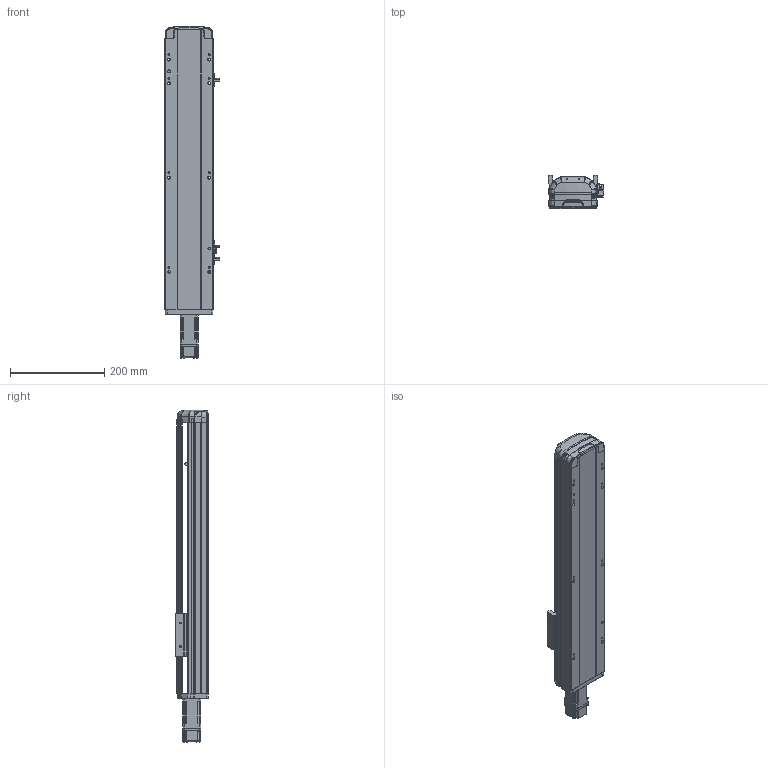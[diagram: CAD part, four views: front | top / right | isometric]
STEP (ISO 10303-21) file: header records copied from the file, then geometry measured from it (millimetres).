
FILE_DESCRIPTION (( 'STEP AP214' ), '1' );
FILE_NAME ('RTH10-XX-350-E-M10-C4.STEP', '2025-10-25T05:22:35', ( 'Microsoft' ), ( 'Microsoft' ), 'SwSTEP 2.0', 'SolidWorks 2018', '' );
FILE_SCHEMA (( 'AUTOMOTIVE_DESIGN' ));
Length unit declared in the file: millimetre
Products named in the file (9): RTH10-XX-350-E-M10-C4; N_RTH12-E-008-M10萇儂啣^RTH10-XX-XX-E-M10-C4; N_P10^RTH10-XX-XX-E-M10-C4; N_RTH12-GY-001P^RTH10-XX-XX-E-M10-C4; N_RTH13-L-012覜茼え俋离^RTH10-XX-XX-E-M10-C4; N_RTH12-E-007P-奻裔^RTH10-XX-XX-E-M10-C4; N_RTH12-GY-004-賑釱^RTH10-XX-XX-E-M10-C4; N_OMRON EE-SX672 传感器^RTH10-XX-XX-E-M10-C4; N_RTH12-E-011P-臏倰第菁釱^RTH10-XX-XX-E-M10-C4
Assembly tree (10 placements, depth 2):
  RTH10-XX-350-E-M10-C4
    N_RTH12-E-011P-臏倰第菁釱^RTH10-XX-XX-E-M10-C4
    N_RTH13-L-012覜茼え俋离^RTH10-XX-XX-E-M10-C4
    N_OMRON EE-SX672 传感器^RTH10-XX-XX-E-M10-C4  x3
    N_P10^RTH10-XX-XX-E-M10-C4
    N_RTH12-E-007P-奻裔^RTH10-XX-XX-E-M10-C4
    N_RTH12-E-008-M10萇儂啣^RTH10-XX-XX-E-M10-C4
    N_RTH12-GY-001P^RTH10-XX-XX-E-M10-C4
    N_RTH12-GY-004-賑釱^RTH10-XX-XX-E-M10-C4
Bounding box: 116.5 x 70 x 703.17 mm (x, y, z)
Volume: 2538887.7 mm3; surface area: 423152.7 mm2
Topology: 9 solids, 11 shells, 1932 faces, 5365 edges, 3518 vertices
Faces by surface type: plane 968, bspline 472, cylinder 457, cone 33, torus 2
Entity records: 57817 total; most frequent: CARTESIAN_POINT 23034, ORIENTED_EDGE 7810, DIRECTION 5989, EDGE_CURVE 3911, VERTEX_POINT 2562, LINE 2075, VECTOR 2075, AXIS2_PLACEMENT_3D 1957
